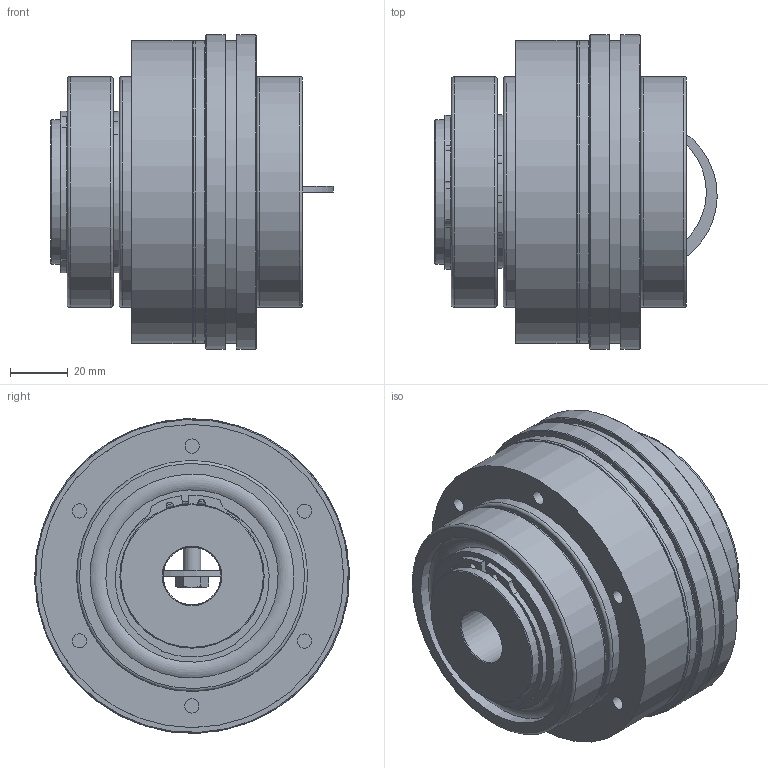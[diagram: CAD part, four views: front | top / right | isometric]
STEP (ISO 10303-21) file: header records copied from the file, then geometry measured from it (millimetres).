
FILE_DESCRIPTION( ( 'Unknown' ), '1' );
FILE_NAME( 'C:/Dokumente und Einstellungen/Sven/Desktop/hp kbk/KBK LL-I-200.stp', 'Unknown', ( 'Unknown' ), ( 'Unknown' ), 'XStep 1.0', 'Unknown', ' ' );
FILE_SCHEMA( ( 'automotive_design' ) );
Length unit declared in the file: millimetre
Products named in the file (12): Assem1; Assem2; ball_bearing_-_6010_0_01; ball_bearing_-_6010_0_02; ball_bearing_-_6010_0_03; Konusbuchse 200; Stellring 200; Druckring 200; a_50; din_en_24017_m6x25_0; KBK LL-I-200 Grundkörper; Flansch 200
Bounding box: 97.8 x 109 x 109 mm (x, y, z)
Volume: 851325.4 mm3; surface area: 307850 mm2
Topology: 32 solids, 32 shells, 538 faces, 1132 edges, 723 vertices
Faces by surface type: plane 213, cylinder 174, cone 112, torus 39
Full cylindrical faces by diameter (mm): 2.5 x6, 3.242 x6, 4.917 x30, 5.2 x12, 6 x7, 6.5 x12, 8.8 x7, 20 x4, 46 x2, 47 x4, 50 x10, 59.7 x8, 62 x2, 64 x2, 66 x4, 70.6 x8, 72 x2, 77 x2, 80 x6, 90 x2, 98 x2, 105 x4, 109 x2
Entity records: 5123 total; most frequent: CARTESIAN_POINT 1138, DIRECTION 870, ORIENTED_EDGE 558, AXIS2_PLACEMENT_3D 409, EDGE_LOOP 352, EDGE_CURVE 279, FACE_OUTER_BOUND 257, VERTEX_POINT 231
